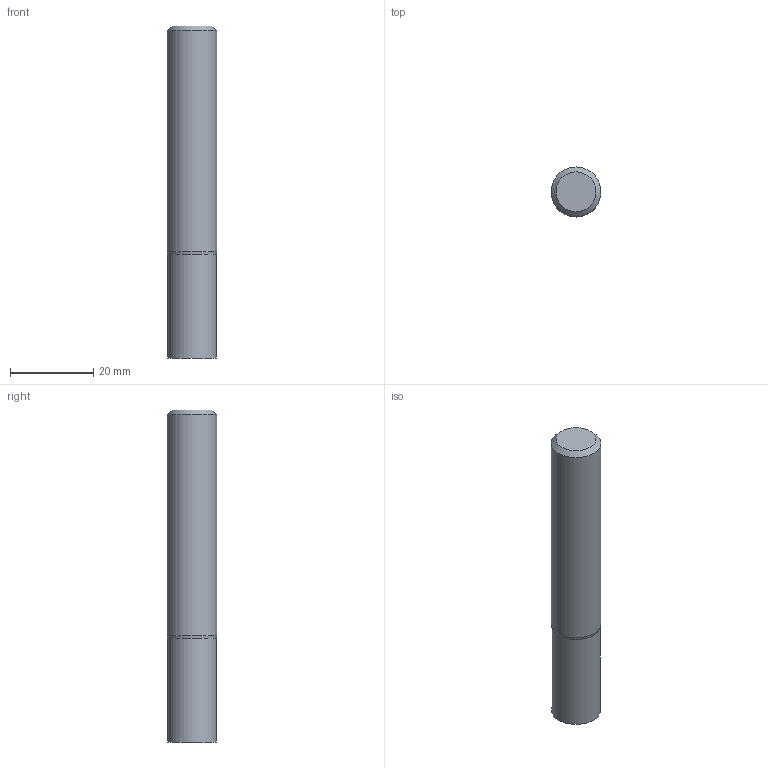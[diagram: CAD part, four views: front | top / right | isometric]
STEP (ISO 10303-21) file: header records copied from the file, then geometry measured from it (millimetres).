
FILE_DESCRIPTION((''),'2;1');
FILE_NAME('C:\Users\nsx150\AppData\Local\Temp\Mastercam 2021\98T1Q6BTT1\TEMP.step','2021-10-21T14:50:31',(''),(''),'STEP Write','Mastercam 2021 ... CNC Software, Inc.','');
FILE_SCHEMA(('AUTOMOTIVE_DESIGN'));
Length unit declared in the file: millimetre
Products named in the file (1): None
Bounding box: 12 x 12 x 80 mm (x, y, z)
Volume: 8927.8 mm3; surface area: 3413.1 mm2
Topology: 2 solids, 2 shells, 8 faces, 10 edges, 6 vertices
Faces by surface type: plane 4, cylinder 2, cone 2
Full cylindrical faces by diameter (mm): 11.8 x1, 12 x1
Entity records: 190 total; most frequent: DIRECTION 32, CARTESIAN_POINT 22, AXIS2_PLACEMENT_3D 16, ORIENTED_EDGE 12, EDGE_LOOP 12, STYLED_ITEM 11, ADVANCED_FACE 8, VERTEX_POINT 6
